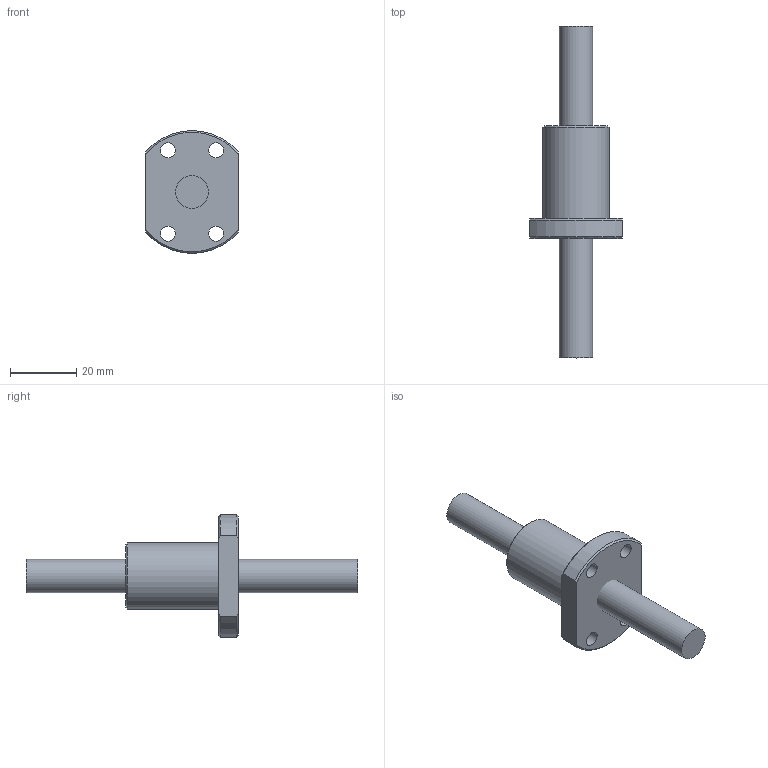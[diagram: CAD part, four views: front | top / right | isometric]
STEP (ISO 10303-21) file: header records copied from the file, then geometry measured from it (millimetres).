
FILE_DESCRIPTION (( 'STEP AP203' ), '1' );
FILE_NAME ('SFK01004.STEP', '2023-07-31T02:03:59', ( '' ), ( '' ), 'SwSTEP 2.0', 'SolidWorks 2022', '' );
FILE_SCHEMA (( 'CONFIG_CONTROL_DESIGN' ));
Length unit declared in the file: millimetre
Products named in the file (1): SFK01004
Bounding box: 28 x 100 x 37 mm (x, y, z)
Volume: 21802.1 mm3; surface area: 7736.3 mm2
Topology: 2 solids, 2 shells, 20 faces, 49 edges, 34 vertices
Faces by surface type: cylinder 8, plane 7, cone 5
Full cylindrical faces by diameter (mm): 4.499 x4, 10 x1, 20 x1
Entity records: 625 total; most frequent: CARTESIAN_POINT 111, DIRECTION 92, ORIENTED_EDGE 74, AXIS2_PLACEMENT_3D 42, EDGE_CURVE 37, EDGE_LOOP 36, VERTEX_POINT 29, FACE_OUTER_BOUND 26
